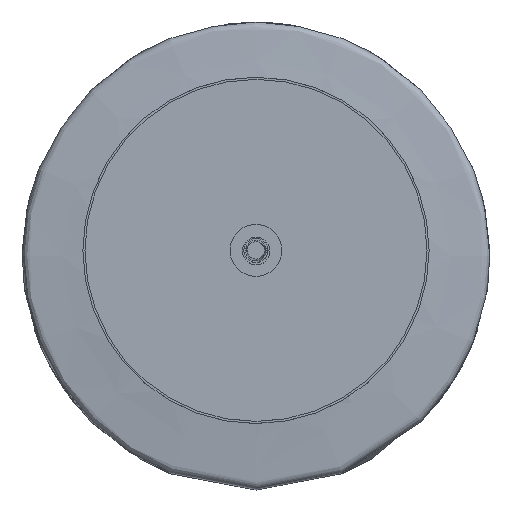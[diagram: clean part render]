
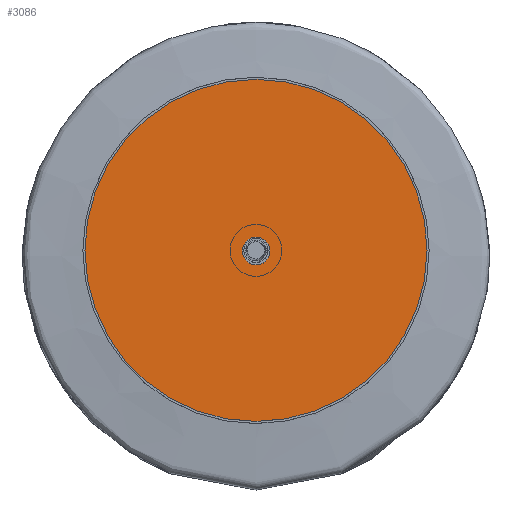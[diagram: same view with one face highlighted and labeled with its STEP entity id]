
A CAD part, top view. The second image highlights one B-rep face of the part: STEP entity #3086.
In plain terms, the highlighted planar face has unit normal (0, 0, 1).
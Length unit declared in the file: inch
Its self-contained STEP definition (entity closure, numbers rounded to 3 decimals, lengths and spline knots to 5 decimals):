
#65=FACE_BOUND('',#409,.T.);
#108=PLANE('',#3334);
#204=FACE_OUTER_BOUND('',#408,.T.);
#408=EDGE_LOOP('',(#2302));
#409=EDGE_LOOP('',(#2303));
#1122=CIRCLE('',#3329,0.2);
#1124=CIRCLE('',#3332,2.47);
#1278=VERTEX_POINT('',#7865);
#1280=VERTEX_POINT('',#7871);
#1650=EDGE_CURVE('',#1278,#1278,#1122,.T.);
#1653=EDGE_CURVE('',#1280,#1280,#1124,.F.);
#2302=ORIENTED_EDGE('',*,*,#1653,.T.);
#2303=ORIENTED_EDGE('',*,*,#1650,.T.);
#3086=ADVANCED_FACE('',(#204,#65),#108,.T.);
#3329=AXIS2_PLACEMENT_3D('',#7866,#3777,#3778);
#3332=AXIS2_PLACEMENT_3D('',#7872,#3784,#3785);
#3334=AXIS2_PLACEMENT_3D('',#7876,#3789,#3790);
#3777=DIRECTION('center_axis',(0.,0.,-1.));
#3778=DIRECTION('ref_axis',(1.,0.,0.));
#3784=DIRECTION('center_axis',(0.,0.,-1.));
#3785=DIRECTION('ref_axis',(1.,0.,0.));
#3789=DIRECTION('center_axis',(0.,0.,1.));
#3790=DIRECTION('ref_axis',(1.,0.,0.));
#7865=CARTESIAN_POINT('',(-0.19813,-0.00889,47.73));
#7866=CARTESIAN_POINT('Origin',(0.00187,-0.00889,
47.73));
#7871=CARTESIAN_POINT('',(-2.47,0.,47.73));
#7872=CARTESIAN_POINT('Origin',(0.,0.,47.73));
#7876=CARTESIAN_POINT('Origin',(0.,0.,47.73));
